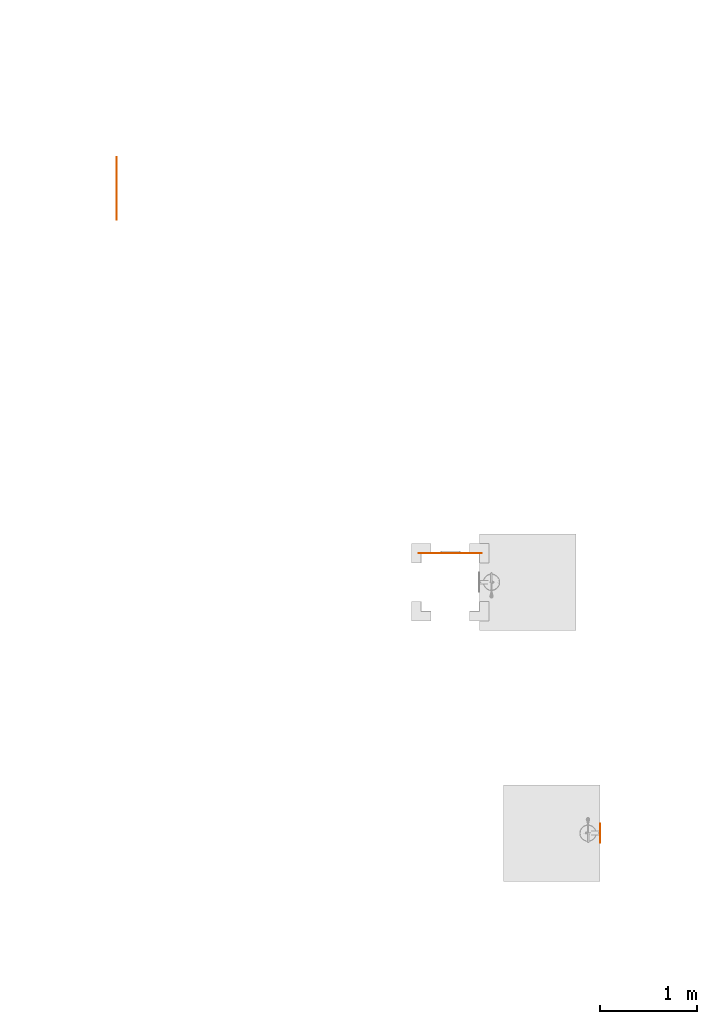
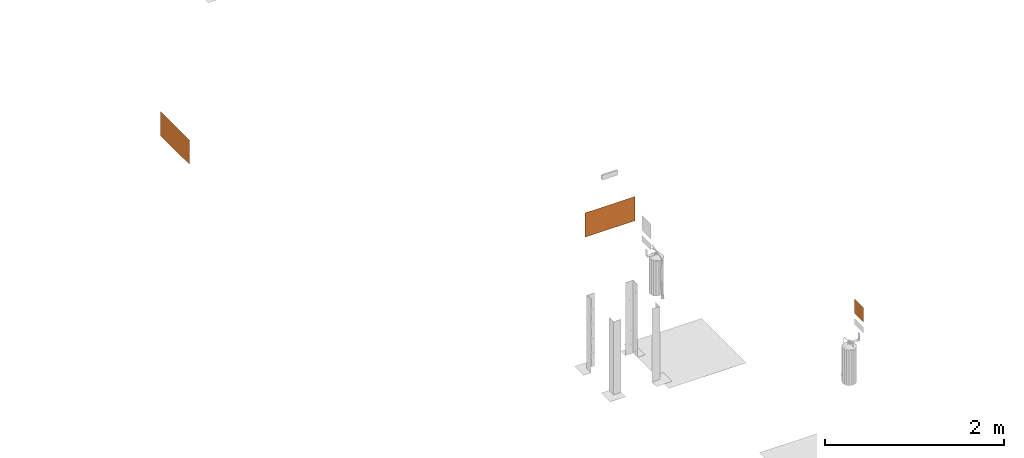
# One storey, part 69 of 119: 3 proxies.
"""IFC2X3 building model written with IfcOpenShell, lengths in metres."""

from ifc_helpers import new_model, entity, si_unit, converted_unit, derived_unit, direction, frame, frame_2d, origin, origin_2d_with_axis, place, context, subcontext, project, spatial, polyline, circle_curve, parameter, trimmed, segment, composite_curve, rectangle, outline, extrude, source, transform, mapped, material, material_list, type_object, type_shapes, element, save


model = new_model("IFC2X3")

# Units and contexts
model_context = context("Model", 3, precision=1e-05, world=origin(), true_north=direction((6.12303176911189e-17, 1.0)))
body_context = subcontext(model_context, "Body", "Model", "MODEL_VIEW")
ifc_project = project(units=[si_unit("LENGTHUNIT", "METRE"), si_unit("AREAUNIT", "SQUARE_METRE"), si_unit("VOLUMEUNIT", "CUBIC_METRE"), converted_unit("PLANEANGLEUNIT", "DEGREE", entity("IfcRatioMeasure", 0.0174532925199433), si_unit("PLANEANGLEUNIT", "RADIAN"), dimensions=[0, 0, 0, 0, 0, 0, 0]), si_unit("MASSUNIT", "GRAM", prefix="KILO"), derived_unit("MASSDENSITYUNIT", [(si_unit("MASSUNIT", "GRAM", prefix="KILO"), 1), (si_unit("LENGTHUNIT", "METRE"), -3)]), derived_unit("MOMENTOFINERTIAUNIT", [(si_unit("LENGTHUNIT", "METRE"), 4)]), si_unit("TIMEUNIT", "SECOND"), si_unit("FREQUENCYUNIT", "HERTZ"), si_unit("THERMODYNAMICTEMPERATUREUNIT", "DEGREE_CELSIUS"), derived_unit("THERMALTRANSMITTANCEUNIT", [(si_unit("MASSUNIT", "GRAM", prefix="KILO"), 1), (si_unit("THERMODYNAMICTEMPERATUREUNIT", "KELVIN"), -1), (si_unit("TIMEUNIT", "SECOND"), -3)]), derived_unit("VOLUMETRICFLOWRATEUNIT", [(si_unit("LENGTHUNIT", "METRE"), 3), (si_unit("TIMEUNIT", "SECOND"), -1)]), si_unit("ELECTRICCURRENTUNIT", "AMPERE"), si_unit("ELECTRICVOLTAGEUNIT", "VOLT"), si_unit("POWERUNIT", "WATT"), si_unit("FORCEUNIT", "NEWTON", prefix="KILO"), si_unit("ILLUMINANCEUNIT", "LUX"), si_unit("LUMINOUSFLUXUNIT", "LUMEN"), si_unit("LUMINOUSINTENSITYUNIT", "CANDELA"), derived_unit("USERDEFINED", [(si_unit("MASSUNIT", "GRAM", prefix="KILO"), -1), (si_unit("LENGTHUNIT", "METRE"), -2), (si_unit("TIMEUNIT", "SECOND"), 3), (si_unit("LUMINOUSFLUXUNIT", "LUMEN"), 1)]), derived_unit("LINEARVELOCITYUNIT", [(si_unit("LENGTHUNIT", "METRE"), 1), (si_unit("TIMEUNIT", "SECOND"), -1)]), si_unit("PRESSUREUNIT", "PASCAL"), derived_unit("USERDEFINED", [(si_unit("LENGTHUNIT", "METRE"), -2), (si_unit("MASSUNIT", "GRAM", prefix="KILO"), 1), (si_unit("TIMEUNIT", "SECOND"), -2)]), derived_unit("LINEARFORCEUNIT", [(si_unit("MASSUNIT", "GRAM", prefix="KILO"), 1), (si_unit("LENGTHUNIT", "METRE"), 1), (si_unit("TIMEUNIT", "SECOND"), -2), (si_unit("LENGTHUNIT", "METRE"), -1)]), derived_unit("PLANARFORCEUNIT", [(si_unit("MASSUNIT", "GRAM", prefix="KILO"), 1), (si_unit("LENGTHUNIT", "METRE"), 1), (si_unit("TIMEUNIT", "SECOND"), -2), (si_unit("LENGTHUNIT", "METRE"), -2)])], contexts=[model_context])

# Site, building, storey
site_placement = place(None, origin())
site = spatial("IfcSite", under=ifc_project, at=site_placement, Name="Default", CompositionType="ELEMENT")
building_placement = place(site_placement, origin())
building = spatial("IfcBuilding", under=site, at=building_placement, CompositionType="ELEMENT")
storey_placement = place(building_placement, origin())
storey = spatial("IfcBuildingStorey", under=building, at=storey_placement, Name="PAV. 01 - TÉRREO", CompositionType="ELEMENT", Elevation=0.0)

# Proxies
ifc_material_1 = material(Name="Plastico branco")
ifc_material_2 = material(Name="Plastico vermelho")
ifc_material_list_1 = material_list([ifc_material_1, ifc_material_2])
building_element_proxy_type_1 = type_object("IfcBuildingElementProxyType", Name="Sinalização de equipamentos - E05 - Extintor de incêndio:Distância 08m", PredefinedType="NOTDEFINED", material=ifc_material_1)
shared_shape_1 = source(origin(), body_context, "Body", "SweptSolid", [
    extrude(outline(composite_curve([segment(polyline([(-0.039533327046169, -0.0988107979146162), (0.0136590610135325, -0.0988107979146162)]), True, "CONTINUOUS"), segment(polyline([(0.0136590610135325, -0.0988107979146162), (0.0136590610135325, -0.0150548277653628)]), True, "CONTINUOUS"), segment(polyline([(0.0136590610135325, -0.0150548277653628), (0.0132403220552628, -0.0112272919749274)]), True, "CONTINUOUS"), segment(polyline([(0.0132403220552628, -0.0112272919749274), (0.0119841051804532, -0.00798860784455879)]), True, "CONTINUOUS"), segment(polyline([(0.0119841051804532, -0.00798860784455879), (0.00989041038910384, -0.00533877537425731)]), True, "CONTINUOUS"), segment(polyline([(0.00989041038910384, -0.00533877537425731), (0.00695923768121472, -0.00327779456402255)]), True, "CONTINUOUS"), segment(polyline([(0.00695923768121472, -0.00327779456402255), (0.00319058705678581, -0.00180566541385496)]), True, "CONTINUOUS"), segment(polyline([(0.00319058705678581, -0.00180566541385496), (-0.00141554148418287, -0.000922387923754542)]), True, "CONTINUOUS"), segment(polyline([(-0.00141554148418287, -0.000922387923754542), (-0.00685914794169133, -0.000627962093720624)]), True, "CONTINUOUS"), segment(polyline([(-0.00685914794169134, -0.000627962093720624), (-0.00685914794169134, 0.00837547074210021)]), True, "CONTINUOUS"), segment(polyline([(-0.00685914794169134, 0.00837547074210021), (0.000568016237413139, 0.00837547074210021)]), True, "CONTINUOUS"), segment(polyline([(0.000568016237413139, 0.00837547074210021), (0.021500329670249, -0.0075875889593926)]), True, "CONTINUOUS"), segment(polyline([(0.021500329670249, -0.0075875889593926), (0.021500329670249, -0.0104328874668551)]), True, "CONTINUOUS"), segment(polyline([(0.021500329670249, -0.0104328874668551), (0.0245059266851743, -0.0104328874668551)]), True, "CONTINUOUS"), segment(polyline([(0.0245059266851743, -0.0104328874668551), (0.0245059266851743, -0.00811335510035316)]), True, "CONTINUOUS"), segment(polyline([(0.0245059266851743, -0.00811335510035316), (0.0243642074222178, -0.00545038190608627)]), True, "CONTINUOUS"), segment(polyline([(0.0243642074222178, -0.00545038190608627), (0.0239570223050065, -0.0032112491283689)]), True, "CONTINUOUS"), segment(polyline([(0.0239570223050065, -0.0032112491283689), (0.0233113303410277, -0.00132119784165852)]), True, "CONTINUOUS"), segment(polyline([(0.0233113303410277, -0.00132119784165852), (0.0224540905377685, 0.00029453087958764)]), True, "CONTINUOUS"), segment(polyline([(0.0224540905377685, 0.00029453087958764), (0.0214122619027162, 0.00171069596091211)]), True, "CONTINUOUS"), segment(polyline([(0.0214122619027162, 0.00171069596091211), (0.0202128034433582, 0.00300205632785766)]), True, "CONTINUOUS"), segment(polyline([(0.0202128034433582, 0.00300205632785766), (0.0188826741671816, 0.00424337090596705)]), True, "CONTINUOUS"), segment(polyline([(0.0188826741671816, 0.00424337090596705), (0.0144021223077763, 0.00811180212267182)]), True, "CONTINUOUS"), segment(polyline([(0.0144021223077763, 0.00811180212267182), (0.0113518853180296, 0.0106145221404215)]), True, "CONTINUOUS"), segment(polyline([(0.0113518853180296, 0.0106145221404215), (0.0085825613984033, 0.0127576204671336)]), True, "CONTINUOUS"), segment(polyline([(0.0085825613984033, 0.0127576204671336), (0.00738733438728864, 0.0136170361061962)]), True, "CONTINUOUS"), segment(polyline([(0.00738733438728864, 0.0136170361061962), (0.00631521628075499, 0.0143235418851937)]), True, "CONTINUOUS"), segment(polyline([(0.00631521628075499, 0.0143235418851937), (0.00532850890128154, 0.0148903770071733)]), True, "CONTINUOUS"), segment(polyline([(0.00532850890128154, 0.0148903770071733), (0.00438926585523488, 0.0153309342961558)]), True, "CONTINUOUS"), segment(polyline([(0.00438926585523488, 0.0153309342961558), (0.00345954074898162, 0.0156586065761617)]), True, "CONTINUOUS"), segment(polyline([(0.00345954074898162, 0.0156586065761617), (0.00250138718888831, 0.0158867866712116)]), True, "CONTINUOUS"), segment(polyline([(0.00250138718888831, 0.0158867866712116), (0.00144087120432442, 0.0160289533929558)]), True, "CONTINUOUS"), segment(polyline([(0.00144087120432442, 0.0160289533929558), (-0.000108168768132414, 0.0160993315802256)]), True, "CONTINUOUS"), segment(polyline([(-0.000108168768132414, 0.0160993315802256), (-0.00685914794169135, 0.0160831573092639)]), True, "CONTINUOUS"), segment(polyline([(-0.00685914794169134, 0.0160831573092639), (-0.00685914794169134, 0.0213863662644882)]), True, "CONTINUOUS"), segment(polyline([(-0.00685914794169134, 0.0213863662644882), (-0.0177728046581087, 0.0213863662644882)]), True, "CONTINUOUS"), segment(polyline([(-0.0177728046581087, 0.0213863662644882), (-0.0177728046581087, 0.0160831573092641)]), True, "CONTINUOUS"), segment(polyline([(-0.0177728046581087, 0.0160831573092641), (-0.0288467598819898, 0.0160831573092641)]), True, "CONTINUOUS"), segment(trimmed(circle_curve(frame_2d((-0.0288467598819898, 0.0122293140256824), x_axis=(-1.0, 0.0)), 0.00385384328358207), [parameter(270.0)], [parameter(90.0000000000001)], True, "PARAMETER"), True, "CONTINUOUS"), segment(polyline([(-0.0288467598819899, 0.00837547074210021), (-0.0190151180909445, 0.00837547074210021)]), True, "CONTINUOUS"), segment(polyline([(-0.0190151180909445, 0.00837547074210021), (-0.0190151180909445, -0.000627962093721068)]), True, "CONTINUOUS"), segment(polyline([(-0.0190151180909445, -0.000627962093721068), (-0.024458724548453, -0.000922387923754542)]), True, "CONTINUOUS"), segment(polyline([(-0.024458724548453, -0.000922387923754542), (-0.0290648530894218, -0.00180566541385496)]), True, "CONTINUOUS"), segment(polyline([(-0.0290648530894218, -0.00180566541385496), (-0.0328335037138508, -0.00327779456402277)]), True, "CONTINUOUS"), segment(polyline([(-0.0328335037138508, -0.00327779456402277), (-0.03576467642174, -0.00533877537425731)]), True, "CONTINUOUS"), segment(polyline([(-0.03576467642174, -0.00533877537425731), (-0.0378583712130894, -0.00798860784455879)]), True, "CONTINUOUS"), segment(polyline([(-0.0378583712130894, -0.00798860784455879), (-0.0391145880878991, -0.0112272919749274)]), True, "CONTINUOUS"), segment(polyline([(-0.0391145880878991, -0.0112272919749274), (-0.039533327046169, -0.0150548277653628)]), True, "CONTINUOUS"), segment(polyline([(-0.039533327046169, -0.0150548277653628), (-0.039533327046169, -0.0988107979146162)]), True, "CONTINUOUS")], self_intersect=False)), frame((-0.0129371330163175, -0.0011, 1.94006139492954), z_axis=(0.0, 1.0, 0.0), x_axis=(-1.0, 0.0, 0.0)), (0.0, 0.0, 1.0), 0.0011),
    extrude(rectangle(XDim=0.001, YDim=0.179, at=origin_2d_with_axis()), frame((0.0, -0.0005, 1.8105), z_axis=(0.0, 0.0, 1.0), x_axis=(0.0, 1.0, 0.0)), (0.0, 0.0, 1.0), 0.179),
    extrude(outline(polyline([(-0.100000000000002, -0.1), (0.100000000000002, -0.1), (0.100000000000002, 0.1), (-0.100000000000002, 0.1), (-0.100000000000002, -0.1)]), holes=[polyline([(-0.0895000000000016, -0.0895000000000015), (-0.0895000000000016, 0.0894999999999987), (0.0894999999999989, 0.0894999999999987), (0.0894999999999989, -0.0895000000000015), (-0.0895000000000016, -0.0895000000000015)])]), frame((0.0, -0.001, 1.9), z_axis=(0.0, 1.0, 0.0), x_axis=(0.0, 0.0, -1.0)), (0.0, 0.0, 1.0), 0.001),
])
type_shapes(building_element_proxy_type_1, [shared_shape_1])
proxy_1_placement = place(storey_placement, frame((7.72406052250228, 29.3352888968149, 0.0), z_axis=(0.0, 0.0, 1.0), x_axis=(0.0, -1.0, 0.0)))
element("IfcBuildingElementProxy", 1, at=proxy_1_placement, inside=storey, type_object=building_element_proxy_type_1, material=ifc_material_list_1, Name="Sinalização de equipamentos - E05 - Extintor de incêndio:Distância 08m", ObjectType="Sinalização de equipamentos - E05 - Extintor de incêndio:Distância 08m", context=body_context, shape_type="MappedRepresentation", body=[
    mapped(shared_shape_1, transform((0.0, 0.0, 0.0), scale=1.0)),
])
ifc_material_3 = material(Name="Plastico Verde")
ifc_material_list_2 = material_list([ifc_material_1, ifc_material_3])
building_element_proxy_type_2 = type_object("IfcBuildingElementProxyType", Name="Sinalização de orientação - S01 - Indicação do sentido da saída de emergência direita:Distância 20m", PredefinedType="NOTDEFINED", material=ifc_material_1)
shared_shape_2 = source(origin(), body_context, "Body", "SweptSolid", [
    extrude(outline(polyline([(0.0207163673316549, 0.0565745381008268), (0.0192937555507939, 0.0558213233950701), (0.0182981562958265, 0.0537455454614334), (0.0176533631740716, 0.05062305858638), (0.0172831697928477, 0.0467297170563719), (0.0171113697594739, 0.0423413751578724), (0.017013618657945, 0.0246825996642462), (0.016779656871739, 0.0169123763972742), (0.0165425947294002, 0.0132568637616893), (0.0161992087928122, 0.00973142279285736), (0.0157297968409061, 0.00631880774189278), (0.0151146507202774, 0.00300175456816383), (0.014323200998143, -0.000270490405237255), (0.0132915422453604, -0.00365146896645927), (0.0119493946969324, -0.00731437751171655), (0.0102264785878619, -0.0114324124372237), (0.00805251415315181, -0.0161787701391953), (0.00535722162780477, -0.021726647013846), (-0.00655942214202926, -0.0449113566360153), (0.0151479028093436, -0.0448486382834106), (0.0162113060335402, -0.0448086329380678), (0.0168856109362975, -0.044755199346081), (0.0172986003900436, -0.0446864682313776), (0.0175780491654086, -0.0446005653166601), (0.0178325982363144, -0.0444838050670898), (0.0181107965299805, -0.0442854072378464), (0.0184494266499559, -0.0439473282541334), (0.0188852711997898, -0.0434115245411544), (0.0194551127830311, -0.0426199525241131), (0.0201957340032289, -0.0415145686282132), (0.02233644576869, -0.038130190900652), (0.0366826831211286, -0.0144090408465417), (0.0384781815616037, -0.0123032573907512), (0.0403115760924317, -0.0106629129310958), (0.0421591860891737, -0.00945921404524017), (0.0439973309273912, -0.00866336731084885), (0.0458023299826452, -0.00824657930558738), (0.0475505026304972, -0.00818005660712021), (0.0492181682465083, -0.0084350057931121), (0.0507816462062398, -0.00898263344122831), (0.0522172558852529, -0.00979414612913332), (0.0535013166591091, -0.0108407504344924), (0.0546101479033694, -0.0120936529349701), (0.0555200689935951, -0.0135240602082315), (0.0562073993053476, -0.0151031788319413), (0.0566484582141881, -0.0168022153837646), (0.0568195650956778, -0.0185923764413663), (0.056697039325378, -0.0204448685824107), (0.05625720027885, -0.0223308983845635), (0.0554763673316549, -0.0242216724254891), (0.0453254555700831, -0.041701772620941), (0.0385619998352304, -0.0528181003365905), (0.0340098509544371, -0.0591684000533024), (0.0304928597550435, -0.0623504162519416), (0.0268473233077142, -0.0639471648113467), (0.0224195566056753, -0.0649381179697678), (0.017233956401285, -0.0655003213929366), (0.0113618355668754, -0.0657553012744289), (-0.037144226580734, -0.0658268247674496), (-0.0423005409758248, -0.0657291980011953), (-0.0468104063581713, -0.0652500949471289), (-0.0509445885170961, -0.0640828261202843), (-0.0549738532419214, -0.0619207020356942), (-0.0591689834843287, -0.0584570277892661), (-0.0638710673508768, -0.0533629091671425), (-0.0696516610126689, -0.0462366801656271), (-0.0869232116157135, -0.0242216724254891), (-0.116627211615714, -0.0242216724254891), (-0.116627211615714, -0.142206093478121), (0.0709104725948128, -0.142206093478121), (0.0709104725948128, 0.0483918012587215), (0.079991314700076, 0.0483918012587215), (0.113187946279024, 0.089405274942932), (0.0709104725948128, 0.089405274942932), (0.0709104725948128, 0.127125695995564), (0.0916666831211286, 0.148247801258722), (-0.040088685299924, 0.148247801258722), (-0.0618095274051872, 0.127125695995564), (-0.0903160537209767, 0.127125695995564), (-0.0639958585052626, 0.148247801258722), (-0.0964364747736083, 0.148247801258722), (-0.116627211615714, 0.127125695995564), (-0.116627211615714, -0.00303304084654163), (-0.0833215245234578, -0.00302782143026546), (-0.0804684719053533, -0.00311548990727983), (-0.0781743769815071, -0.00338372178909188), (-0.0762495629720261, -0.00392019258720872), (-0.0745043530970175, -0.00481257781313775), (-0.0727491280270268, -0.00614851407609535), (-0.0708315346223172, -0.00799040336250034), (-0.0687006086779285, -0.0103319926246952), (-0.0663224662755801, -0.0131554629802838), (-0.0536600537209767, -0.0289117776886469), (-0.0361636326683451, 0.00694590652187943), (-0.0903160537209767, 0.117978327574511), (-0.0618095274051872, 0.117978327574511), (-0.0106507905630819, 0.0212490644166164), (-0.00655942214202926, 0.0565745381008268), (-0.00621671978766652, 0.0609089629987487), (-0.00577896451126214, 0.0647408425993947), (-0.00516938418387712, 0.0680941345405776), (-0.00431120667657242, 0.0709927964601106), (-0.00312765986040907, 0.0734607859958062), (-0.00154197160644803, 0.0755220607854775), (0.00052263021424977, 0.0772005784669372), (0.00314291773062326, 0.0785202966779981), (0.00639566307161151, 0.0795051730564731), (0.0103576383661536, 0.0801791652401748), (0.0151056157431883, 0.0805662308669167), (0.0207163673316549, 0.0806903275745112), (0.0916666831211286, 0.0806903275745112), (0.0709104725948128, 0.0565745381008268), (0.0207163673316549, 0.0565745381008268)]), holes=[composite_curve([segment(trimmed(circle_curve(frame_2d((-0.0480718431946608, -0.0930431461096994), x_axis=(-1.0, 0.0)), 0.0222863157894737), [parameter(180.0)], [parameter(0.0)], True, "PARAMETER"), False, "CONTINUOUS"), segment(trimmed(circle_curve(frame_2d((-0.0480718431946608, -0.0930431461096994), x_axis=(-1.0, 0.0)), 0.0222863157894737), [parameter(3.56222124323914e-13)], [parameter(180.0)], True, "PARAMETER"), False, "CONTINUOUS")], self_intersect=False)]), frame((-0.18787689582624, -0.00110000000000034, 1.9685208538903), z_axis=(0.0, -1.0, 0.0), x_axis=(-1.0, 0.0, 0.0)), (0.0, 0.0, -1.0), 0.0011),
    extrude(outline(polyline([(-0.165500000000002, -0.323500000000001), (0.165500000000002, -0.323500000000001), (0.165500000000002, 0.323500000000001), (-0.165500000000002, 0.323500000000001), (-0.165500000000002, -0.323500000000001)]), holes=[polyline([(-0.158000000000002, -0.316000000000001), (-0.158000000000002, 0.315999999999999), (0.157999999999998, 0.315999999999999), (0.157999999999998, -0.316000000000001), (-0.158000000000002, -0.316000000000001)])]), frame((0.0, -0.0011, 1.9655), z_axis=(0.0, 1.0, 0.0), x_axis=(0.0, 0.0, -1.0)), (0.0, 0.0, 1.0), 0.0011),
    extrude(rectangle(XDim=0.001, YDim=0.632, at=origin_2d_with_axis()), frame((0.0, -0.0005, 1.8075), z_axis=(0.0, 0.0, 1.0), x_axis=(0.0, 1.0, 0.0)), (0.0, 0.0, 1.0), 0.316000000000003),
    extrude(outline(polyline([(-0.0275766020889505, -0.107902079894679), (0.107902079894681, -0.107902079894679), (0.107902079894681, 0.027576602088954), (0.048183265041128, 0.0872954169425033), (0.0481832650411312, -0.0031648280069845), (-0.0777225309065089, 0.122740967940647), (-0.122740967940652, 0.0777225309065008), (0.00316482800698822, -0.0481832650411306), (-0.0872954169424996, -0.0481832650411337), (-0.0275766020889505, -0.107902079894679)])), frame((0.141749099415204, -0.0011, 1.9655), z_axis=(0.0, 1.0, 0.0), x_axis=(0.707106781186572, 0.0, -0.707106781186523)), (0.0, 0.0, 1.0), 0.0011),
])
type_shapes(building_element_proxy_type_2, [shared_shape_2])
proxy_2_placement = place(storey_placement, frame((6.17387515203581, 32.2286443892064, 0.0), z_axis=(0.0, 0.0, 1.0), x_axis=(-1.0, 0.0, 0.0)))
element("IfcBuildingElementProxy", 2, at=proxy_2_placement, inside=storey, type_object=building_element_proxy_type_2, material=ifc_material_list_2, Name="Sinalização de orientação - S01 - Indicação do sentido da saída de emergência direita:Distância 20m", ObjectType="Sinalização de orientação - S01 - Indicação do sentido da saída de emergência direita:Distância 20m", context=body_context, shape_type="MappedRepresentation", body=[
    mapped(shared_shape_2, transform((0.0, 0.0, 0.0), scale=1.0)),
])
ifc_material_list_3 = material_list([ifc_material_1, ifc_material_3])
building_element_proxy_type_3 = type_object("IfcBuildingElementProxyType", Name="Sinalização de orientação - S01 - Indicação do sentido da saída de emergência direita:Distância 20m", PredefinedType="NOTDEFINED", material=ifc_material_1)
shared_shape_3 = source(origin(), body_context, "Body", "SweptSolid", [
    extrude(outline(polyline([(0.0207163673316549, 0.0565745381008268), (0.0192937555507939, 0.0558213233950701), (0.0182981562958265, 0.0537455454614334), (0.0176533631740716, 0.05062305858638), (0.0172831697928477, 0.0467297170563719), (0.0171113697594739, 0.0423413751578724), (0.017013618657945, 0.0246825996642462), (0.016779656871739, 0.0169123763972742), (0.0165425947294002, 0.0132568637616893), (0.0161992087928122, 0.00973142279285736), (0.0157297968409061, 0.00631880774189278), (0.0151146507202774, 0.00300175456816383), (0.014323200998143, -0.000270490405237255), (0.0132915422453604, -0.00365146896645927), (0.0119493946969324, -0.00731437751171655), (0.0102264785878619, -0.0114324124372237), (0.00805251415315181, -0.0161787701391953), (0.00535722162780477, -0.021726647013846), (-0.00655942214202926, -0.0449113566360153), (0.0151479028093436, -0.0448486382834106), (0.0162113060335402, -0.0448086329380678), (0.0168856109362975, -0.044755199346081), (0.0172986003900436, -0.0446864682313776), (0.0175780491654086, -0.0446005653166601), (0.0178325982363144, -0.0444838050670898), (0.0181107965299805, -0.0442854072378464), (0.0184494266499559, -0.0439473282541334), (0.0188852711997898, -0.0434115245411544), (0.0194551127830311, -0.0426199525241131), (0.0201957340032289, -0.0415145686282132), (0.02233644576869, -0.038130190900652), (0.0366826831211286, -0.0144090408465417), (0.0384781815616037, -0.0123032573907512), (0.0403115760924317, -0.0106629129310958), (0.0421591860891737, -0.00945921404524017), (0.0439973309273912, -0.00866336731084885), (0.0458023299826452, -0.00824657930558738), (0.0475505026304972, -0.00818005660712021), (0.0492181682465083, -0.0084350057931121), (0.0507816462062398, -0.00898263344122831), (0.0522172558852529, -0.00979414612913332), (0.0535013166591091, -0.0108407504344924), (0.0546101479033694, -0.0120936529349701), (0.0555200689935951, -0.0135240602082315), (0.0562073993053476, -0.0151031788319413), (0.0566484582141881, -0.0168022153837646), (0.0568195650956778, -0.0185923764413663), (0.056697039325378, -0.0204448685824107), (0.05625720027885, -0.0223308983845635), (0.0554763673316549, -0.0242216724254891), (0.0453254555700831, -0.041701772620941), (0.0385619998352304, -0.0528181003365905), (0.0340098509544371, -0.0591684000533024), (0.0304928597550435, -0.0623504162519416), (0.0268473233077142, -0.0639471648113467), (0.0224195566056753, -0.0649381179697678), (0.017233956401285, -0.0655003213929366), (0.0113618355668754, -0.0657553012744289), (-0.037144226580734, -0.0658268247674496), (-0.0423005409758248, -0.0657291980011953), (-0.0468104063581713, -0.0652500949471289), (-0.0509445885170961, -0.0640828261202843), (-0.0549738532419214, -0.0619207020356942), (-0.0591689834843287, -0.0584570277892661), (-0.0638710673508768, -0.0533629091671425), (-0.0696516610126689, -0.0462366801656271), (-0.0869232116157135, -0.0242216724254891), (-0.116627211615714, -0.0242216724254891), (-0.116627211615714, -0.142206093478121), (0.0709104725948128, -0.142206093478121), (0.0709104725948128, 0.0483918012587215), (0.079991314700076, 0.0483918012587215), (0.113187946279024, 0.089405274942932), (0.0709104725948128, 0.089405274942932), (0.0709104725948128, 0.127125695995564), (0.0916666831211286, 0.148247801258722), (-0.040088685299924, 0.148247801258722), (-0.0618095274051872, 0.127125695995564), (-0.0903160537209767, 0.127125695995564), (-0.0639958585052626, 0.148247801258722), (-0.0964364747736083, 0.148247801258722), (-0.116627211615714, 0.127125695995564), (-0.116627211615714, -0.00303304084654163), (-0.0833215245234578, -0.00302782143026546), (-0.0804684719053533, -0.00311548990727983), (-0.0781743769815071, -0.00338372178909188), (-0.0762495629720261, -0.00392019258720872), (-0.0745043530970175, -0.00481257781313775), (-0.0727491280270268, -0.00614851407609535), (-0.0708315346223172, -0.00799040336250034), (-0.0687006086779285, -0.0103319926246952), (-0.0663224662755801, -0.0131554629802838), (-0.0536600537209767, -0.0289117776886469), (-0.0361636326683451, 0.00694590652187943), (-0.0903160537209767, 0.117978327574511), (-0.0618095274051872, 0.117978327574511), (-0.0106507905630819, 0.0212490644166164), (-0.00655942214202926, 0.0565745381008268), (-0.00621671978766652, 0.0609089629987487), (-0.00577896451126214, 0.0647408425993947), (-0.00516938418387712, 0.0680941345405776), (-0.00431120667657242, 0.0709927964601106), (-0.00312765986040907, 0.0734607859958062), (-0.00154197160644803, 0.0755220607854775), (0.00052263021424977, 0.0772005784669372), (0.00314291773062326, 0.0785202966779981), (0.00639566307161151, 0.0795051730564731), (0.0103576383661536, 0.0801791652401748), (0.0151056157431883, 0.0805662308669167), (0.0207163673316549, 0.0806903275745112), (0.0916666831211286, 0.0806903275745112), (0.0709104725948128, 0.0565745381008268), (0.0207163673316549, 0.0565745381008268)]), holes=[composite_curve([segment(trimmed(circle_curve(frame_2d((-0.0480718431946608, -0.0930431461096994), x_axis=(-1.0, 0.0)), 0.0222863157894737), [parameter(180.0)], [parameter(0.0)], True, "PARAMETER"), False, "CONTINUOUS"), segment(trimmed(circle_curve(frame_2d((-0.0480718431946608, -0.0930431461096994), x_axis=(-1.0, 0.0)), 0.0222863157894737), [parameter(3.56222124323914e-13)], [parameter(180.0)], True, "PARAMETER"), False, "CONTINUOUS")], self_intersect=False)]), frame((-0.18787689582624, -0.00110000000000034, 1.9685208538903), z_axis=(0.0, -1.0, 0.0), x_axis=(-1.0, 0.0, 0.0)), (0.0, 0.0, -1.0), 0.0011),
    extrude(outline(polyline([(-0.165500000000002, -0.323500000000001), (0.165500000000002, -0.323500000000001), (0.165500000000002, 0.323500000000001), (-0.165500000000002, 0.323500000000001), (-0.165500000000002, -0.323500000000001)]), holes=[polyline([(-0.158000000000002, -0.316000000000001), (-0.158000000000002, 0.315999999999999), (0.157999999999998, 0.315999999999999), (0.157999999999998, -0.316000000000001), (-0.158000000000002, -0.316000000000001)])]), frame((0.0, -0.0011, 1.9655), z_axis=(0.0, 1.0, 0.0), x_axis=(0.0, 0.0, -1.0)), (0.0, 0.0, 1.0), 0.0011),
    extrude(rectangle(XDim=0.001, YDim=0.632, at=origin_2d_with_axis()), frame((0.0, -0.0005, 1.8075), z_axis=(0.0, 0.0, 1.0), x_axis=(0.0, 1.0, 0.0)), (0.0, 0.0, 1.0), 0.316000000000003),
    extrude(outline(polyline([(-0.0275766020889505, -0.107902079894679), (0.107902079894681, -0.107902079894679), (0.107902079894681, 0.027576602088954), (0.048183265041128, 0.0872954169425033), (0.0481832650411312, -0.0031648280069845), (-0.0777225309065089, 0.122740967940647), (-0.122740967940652, 0.0777225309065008), (0.00316482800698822, -0.0481832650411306), (-0.0872954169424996, -0.0481832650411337), (-0.0275766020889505, -0.107902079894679)])), frame((0.141749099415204, -0.0011, 1.9655), z_axis=(0.0, 1.0, 0.0), x_axis=(0.707106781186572, 0.0, -0.707106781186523)), (0.0, 0.0, 1.0), 0.0011),
])
type_shapes(building_element_proxy_type_3, [shared_shape_3])
proxy_3_placement = place(storey_placement, frame((2.72689108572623, 35.9986399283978, 0.0), z_axis=(0.0, 0.0, 1.0), x_axis=(0.0, 1.0, 0.0)))
element("IfcBuildingElementProxy", 3, at=proxy_3_placement, inside=storey, type_object=building_element_proxy_type_3, material=ifc_material_list_3, Name="Sinalização de orientação - S01 - Indicação do sentido da saída de emergência direita:Distância 20m", ObjectType="Sinalização de orientação - S01 - Indicação do sentido da saída de emergência direita:Distância 20m", context=body_context, shape_type="MappedRepresentation", body=[
    mapped(shared_shape_3, transform((0.0, 0.0, 0.0), scale=1.0)),
])

save(model, "model.ifc")
